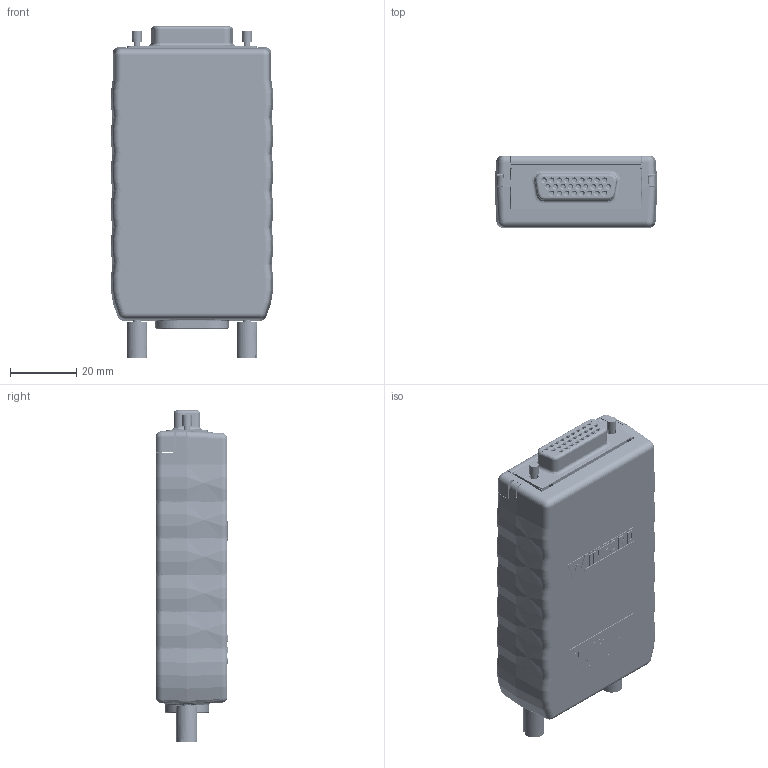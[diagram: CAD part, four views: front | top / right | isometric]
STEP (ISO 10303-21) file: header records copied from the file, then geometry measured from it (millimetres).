
FILE_DESCRIPTION (( 'STEP AP214' ), '1' );
FILE_NAME ('brkegd26hdf-t_rev_a.stp', '2022-04-18T02:05:36', ( '' ), ( '' ), 'SwSTEP 2.0', 'SolidWorks 2017', '' );
FILE_SCHEMA (( 'AUTOMOTIVE_DESIGN' ));
Length unit declared in the file: inch
Products named in the file (14): BRKEGD26HDF Assembly_BRKEGD26HDF-T; BRKEGD26HDF-T Label; Enclosure #4-40 Insert_92395A112; Spring Terminal 13 Pos; ECB15B1 Base; BRKEGD26HDF Board; PCB Bracket; brkegd26hdf-t_rev_a; Female Right Angle 26 Pin-TS; Enclosure_Screw Ph 2-28 x .25_90380A005; Spring Terminal 14 Position; Enclosure_Screw Ph 4-40 x .625_90272A112; thumbscrew 3.87 inch; ECB15B1 Cover
Assembly tree (19 placements, depth 3):
  brkegd26hdf-t_rev_a
    ECB15B1 Base
    ECB15B1 Cover
    PCB Bracket
    BRKEGD26HDF Assembly_BRKEGD26HDF-T
      BRKEGD26HDF Board
      Spring Terminal 13 Pos
      Spring Terminal 14 Position
      thumbscrew 3.87 inch  x2
      Female Right Angle 26 Pin-TS
    BRKEGD26HDF-T Label
    thumbscrew 3.87 inch  x2
    Enclosure #4-40 Insert_92395A112  x2
    Enclosure_Screw Ph 4-40 x .625_90272A112  x2
    Enclosure_Screw Ph 2-28 x .25_90380A005  x2
Bounding box: 49.29 x 22 x 100.58 mm (x, y, z)
Volume: 37889.8 mm3; surface area: 54602 mm2
Topology: 32 solids, 117 shells, 14532 faces, 36475 edges, 22723 vertices
Faces by surface type: plane 5853, cylinder 4080, bspline 3818, cone 292, torus 254, sphere 235
Entity records: 551835 total; most frequent: CARTESIAN_POINT 220831, ORIENTED_EDGE 66234, DIRECTION 53868, EDGE_CURVE 33131, VERTEX_POINT 20954, LINE 18346, VECTOR 18346, AXIS2_PLACEMENT_3D 17761
